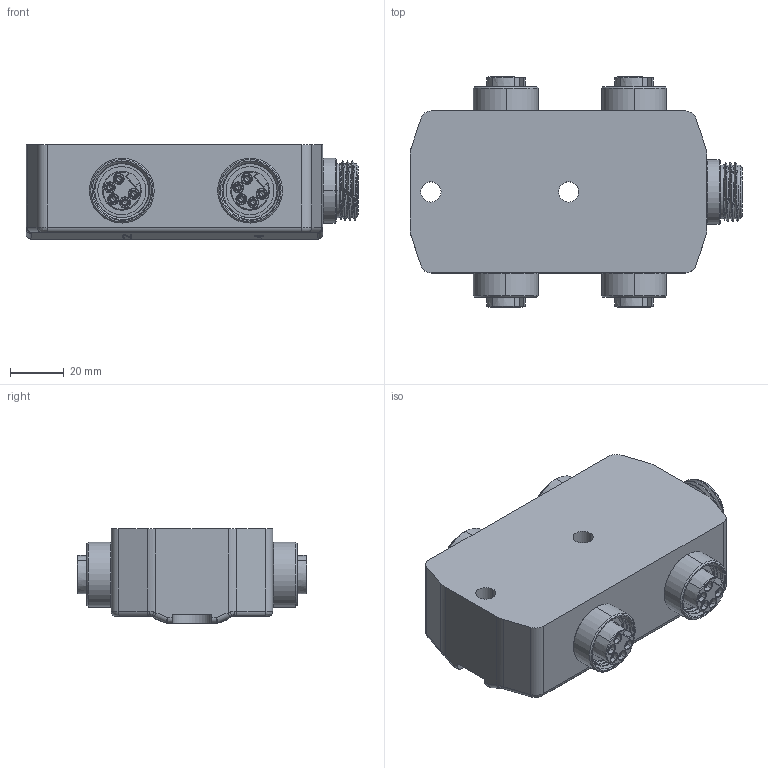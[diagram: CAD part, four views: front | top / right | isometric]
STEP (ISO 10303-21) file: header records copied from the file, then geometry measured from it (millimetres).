
FILE_DESCRIPTION(/* description */ (''),/* implementation_level */ '2;1');
FILE_NAME(/* name */ '270541 分线盒.stp',/* time_stamp */ '2024-01-23T10:11:05+08:00',/* author */ (''),/* organization */ (''),/* preprocessor_version */ 'ST-DEVELOPER v16.7',/* originating_system */ 'SIEMENS PLM Software NX 12.0',/* authorisation */ '');
FILE_SCHEMA (('AUTOMOTIVE_DESIGN { 1 0 10303 214 3 1 1 1 }'));
Products named in the file (1): 270441 分线盒 221021_step
Bounding box: 123 x 85.2 x 35 mm (x, y, z)
Volume: 245836.9 mm3; surface area: 57444.5 mm2
Topology: 6 solids, 6 shells, 2294 faces, 6323 edges, 3954 vertices
Faces by surface type: plane 977, cone 667, cylinder 405, bspline 134, torus 111
Full cylindrical faces by diameter (mm): 15.8 x5
Entity records: 81961 total; most frequent: CARTESIAN_POINT 25373, ORIENTED_EDGE 12546, DIRECTION 11131, EDGE_CURVE 6273, AXIS2_PLACEMENT_3D 4073, VERTEX_POINT 3949, LINE 2985, VECTOR 2985
